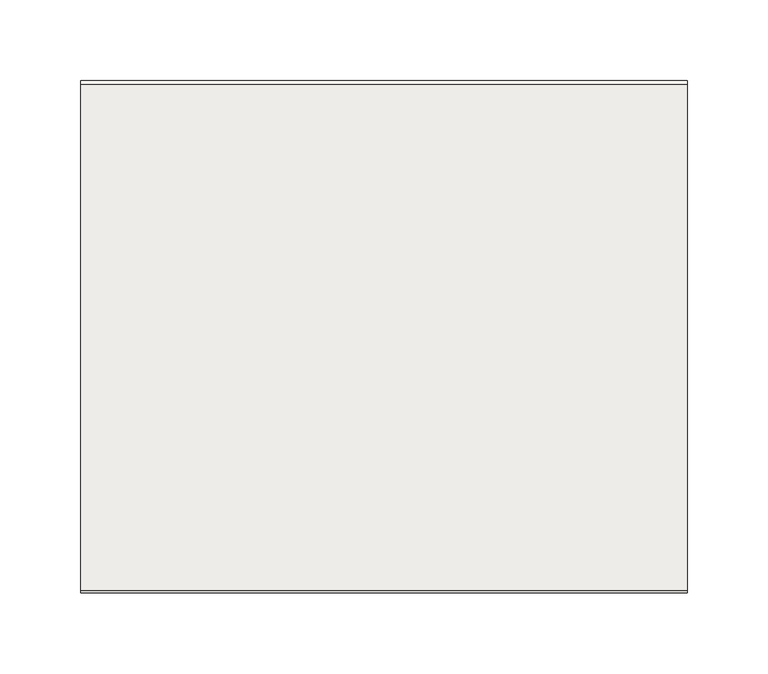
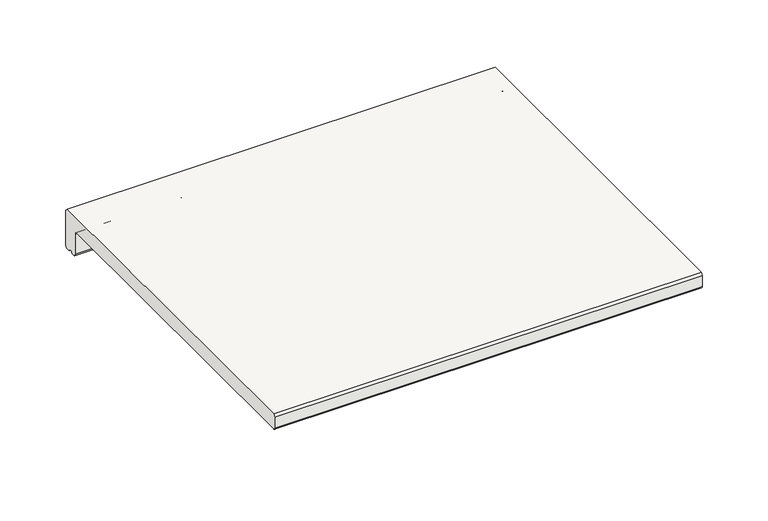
"""IFC4 building model written with IfcOpenShell, lengths in millimetres: slab geometry, ROSA GRES_L62 : Pieza L62_Tresor_Java_Anti-Slip."""

from ifc_helpers import new_model, si_unit, point, frame, frame_2d, origin, place, context, project, spatial, polyline, circle_curve, trimmed, segment, composite_curve, outline, extrude, source, transform, mapped, element, save


def slab_03dca62d(model_context):
    return source(origin(), model_context, "Body", "SweptSolid", [
        extrude(outline(composite_curve([segment(trimmed(circle_curve(frame_2d((-12.1001991, -35.1001991)), 1.8998009), [point((-12.1001991, -37.0))], [point((-14.0, -35.1001991))], False, "CARTESIAN"), True, "CONTINUOUS"), segment(polyline([(-14.0, -35.1001991), (-14.0, -16.5836242)]), True, "CONTINUOUS"), segment(trimmed(circle_curve(frame_2d((-16.6422322, -16.5836242)), 2.6422322), [point((-14.0, -16.5836242))], [point((-16.6422322, -13.9413919))], True, "CARTESIAN"), True, "CONTINUOUS"), segment(polyline([(-16.6422322, -13.9413919), (-315.5234432, -13.9413919)]), True, "CONTINUOUS"), segment(trimmed(circle_curve(frame_2d((-315.5234432, -12.4648352)), 1.4765568), [point((-315.5234432, -13.9413919))], [point((-317.0, -12.4648352))], False, "CARTESIAN"), True, "CONTINUOUS"), segment(polyline([(-317.0, -12.4648352), (-317.0, -2.5), (-315.5, 0.0), (-2.5, 0.0), (0.0, -2.5), (0.0, -34.5)]), True, "CONTINUOUS"), segment(trimmed(circle_curve(frame_2d((-2.5, -34.5)), 2.5), [point((0.0, -34.5))], [point((-2.5, -37.0))], False, "CARTESIAN"), True, "CONTINUOUS"), segment(polyline([(-2.5, -37.0), (-5.422949, -37.0)]), True, "CONTINUOUS"), segment(trimmed(circle_curve(frame_2d((-7.4142134, -37.0)), 1.9912643), [point((-5.422949, -37.0))], [point((-9.4054777, -37.0))], True, "CARTESIAN"), True, "CONTINUOUS"), segment(polyline([(-9.4054777, -37.0), (-12.1001991, -37.0)]), True, "CONTINUOUS")], self_intersect=False)), frame((0.0, 0.0, 0.0), z_axis=(1.0, 0.0, 0.0), x_axis=(0.0, 1.0, 0.0)), (0.0, 0.0, 1.0), 375.0),
    ])


if __name__ == "__main__":
    model = new_model("IFC4")
    model_context = context("Model", 3, world=origin())
    ifc_project = project(units=[si_unit("LENGTHUNIT", "METRE", prefix="MILLI")], contexts=[model_context])
    site = spatial("IfcSite", under=ifc_project)
    building = spatial("IfcBuilding", under=site)
    placement = place(None, origin())
    slab_shape = slab_03dca62d(model_context)
    element("IfcSlab", 1, ObjectType="ROSA GRES_L62 : Pieza L62_Tresor_Java_Anti-Slip", at=placement, inside=building, context=model_context, shape_type="MappedRepresentation", body=[
        mapped(slab_shape, transform((0.0, 0.0, 0.0), x_axis=(1.0, 0.0, 0.0), y_axis=(0.0, 1.0, 0.0), z_axis=(0.0, 0.0, 1.0))),
    ])
    save(model, "model.ifc")
